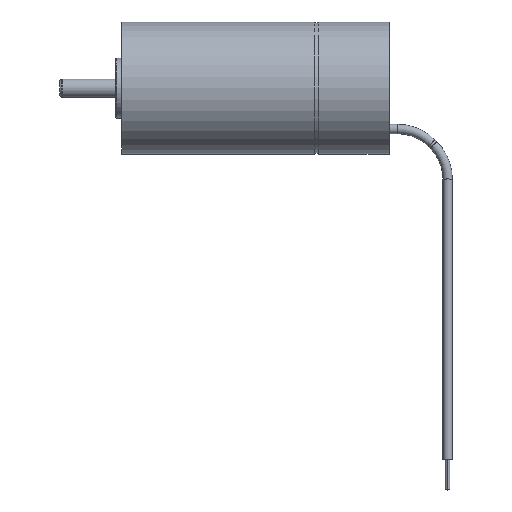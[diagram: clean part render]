
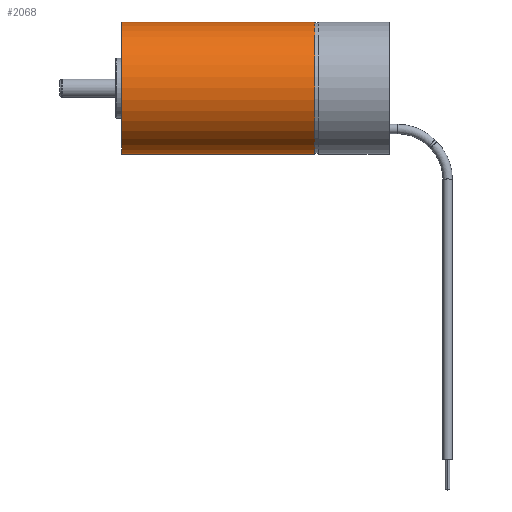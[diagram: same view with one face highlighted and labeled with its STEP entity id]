
A CAD part, top view. The second image highlights one B-rep face of the part: STEP entity #2068.
In plain terms, the highlighted cylindrical face has radius 11 mm (diameter 22 mm), a partial arc.
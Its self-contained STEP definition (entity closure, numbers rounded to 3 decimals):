
#57=CARTESIAN_POINT('',(32.1,0.,0.));
#58=DIRECTION('',(-1.,0.,0.));
#59=DIRECTION('',(0.,-1.,0.));
#60=AXIS2_PLACEMENT_3D('',#57,#58,#59);
#77=DIRECTION('',(-1.,0.,0.));
#78=VECTOR('',#77,32.1);
#79=CARTESIAN_POINT('',(32.1,11.,0.));
#80=LINE('',#79,#78);
#81=DIRECTION('',(1.,0.,0.));
#82=VECTOR('',#81,32.1);
#83=CARTESIAN_POINT('',(0.,-11.,0.));
#84=LINE('',#83,#82);
#90=CARTESIAN_POINT('',(0.,0.,0.));
#91=DIRECTION('',(1.,0.,0.));
#92=DIRECTION('',(0.,1.,0.));
#93=AXIS2_PLACEMENT_3D('',#90,#91,#92);
#1566=CARTESIAN_POINT('',(32.1,-11.,0.));
#1567=CARTESIAN_POINT('',(32.1,11.,0.));
#1568=VERTEX_POINT('',#1566);
#1569=VERTEX_POINT('',#1567);
#1586=CARTESIAN_POINT('',(0.,11.,0.));
#1587=VERTEX_POINT('',#1586);
#1588=CARTESIAN_POINT('',(0.,-11.,0.));
#1589=VERTEX_POINT('',#1588);
#2054=CARTESIAN_POINT('',(0.,0.,0.));
#2055=DIRECTION('',(1.,0.,0.));
#2056=DIRECTION('',(0.,-1.,0.));
#2057=AXIS2_PLACEMENT_3D('',#2054,#2055,#2056);
#2058=CYLINDRICAL_SURFACE('',#2057,11.);
#2059=ORIENTED_EDGE('',*,*,#2043,.F.);
#2061=ORIENTED_EDGE('',*,*,#2060,.F.);
#2063=ORIENTED_EDGE('',*,*,#2062,.F.);
#2065=ORIENTED_EDGE('',*,*,#2064,.F.);
#2066=EDGE_LOOP('',(#2059,#2061,#2063,#2065));
#2067=FACE_OUTER_BOUND('',#2066,.F.);
#2068=ADVANCED_FACE('',(#2067),#2058,.T.);
#61=CIRCLE('',#60,11.);
#94=CIRCLE('',#93,11.);
#2043=EDGE_CURVE('',#1568,#1569,#61,.T.);
#2060=EDGE_CURVE('',#1589,#1568,#84,.T.);
#2062=EDGE_CURVE('',#1587,#1589,#94,.T.);
#2064=EDGE_CURVE('',#1569,#1587,#80,.T.);
